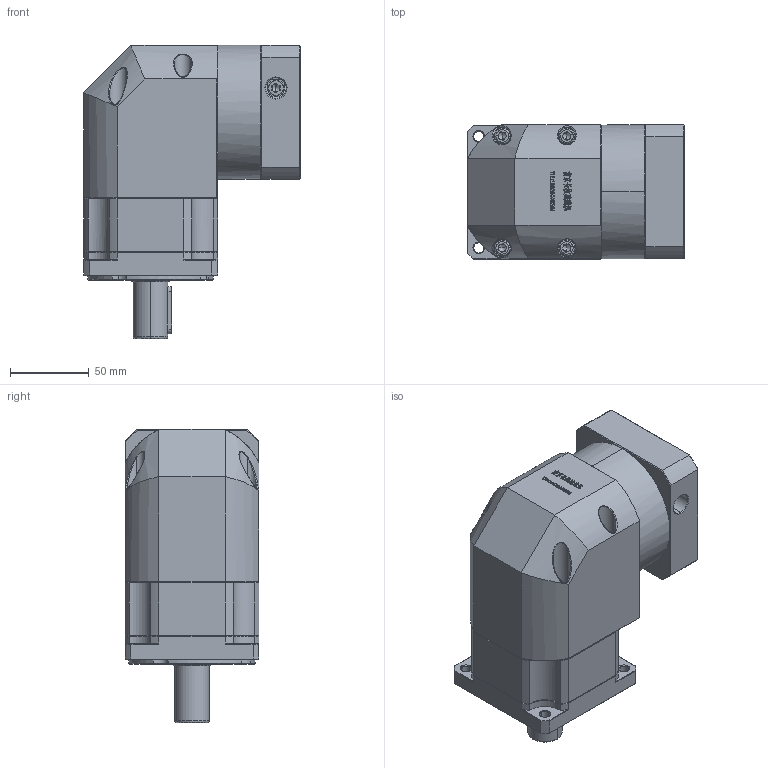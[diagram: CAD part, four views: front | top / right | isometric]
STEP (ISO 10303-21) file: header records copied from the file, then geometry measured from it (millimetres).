
FILE_DESCRIPTION (( 'STEP AP214' ), '1' );
FILE_NAME ('ZBR90-D22-L1-14-60-75-M6.step', '2022-05-07T15:09:41', ( '' ), ( 'Microsoft' ), 'SwSTEP 2.0', 'SolidWorks 2016', '' );
FILE_SCHEMA (( 'AUTOMOTIVE_DESIGN' ));
Length unit declared in the file: millimetre
Products named in the file (1): ZBR90-D22-L1-14-60-75-M6
Bounding box: 137.6 x 85 x 186 mm (x, y, z)
Volume: 1193858.6 mm3; surface area: 129608.7 mm2
Topology: 5 solids, 5 shells, 3019 faces, 7983 edges, 5097 vertices
Faces by surface type: plane 1596, bspline 603, cylinder 450, cone 344, torus 26
Entity records: 163575 total; most frequent: CARTESIAN_POINT 60526, ORIENTED_EDGE 15890, DIRECTION 12115, EDGE_CURVE 7945, LINE 5325, VECTOR 5325, VERTEX_POINT 5097, AXIS2_PLACEMENT_3D 3395
